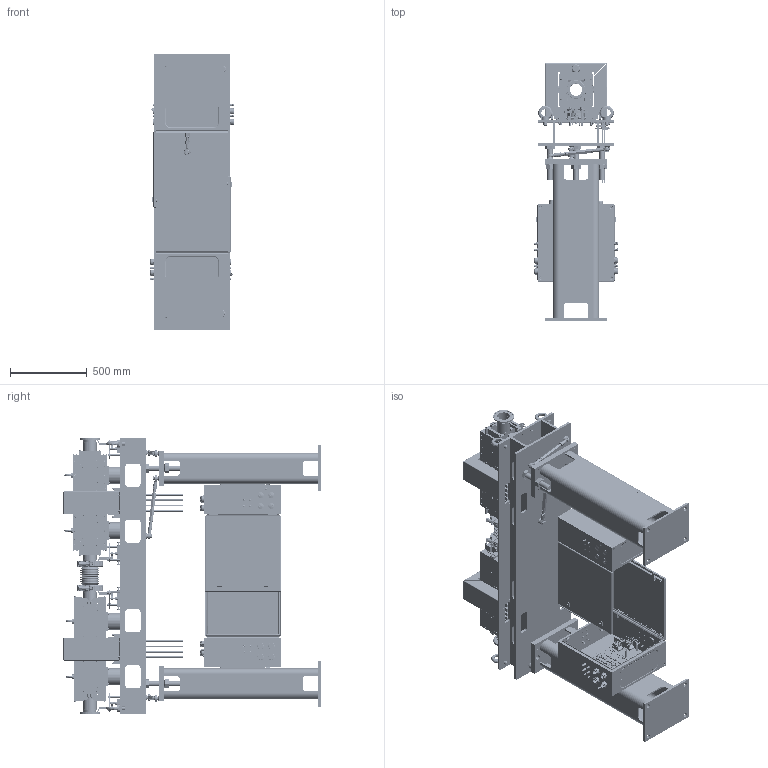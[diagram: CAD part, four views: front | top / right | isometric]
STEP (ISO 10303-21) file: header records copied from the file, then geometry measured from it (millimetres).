
FILE_DESCRIPTION(/* description */ ('Magnet assembly on adjustable stand'),/* implementation_level */ '2;1');
FILE_NAME(/* name */ 'C:\Users\aana\Desktop\7103033532.stp',/* time_stamp */ '2018-04-19T10:28:01+02:00',/* author */ ('AANA'),/* organization */ (''),/* preprocessor_version */ 'ST-DEVELOPER v17',/* originating_system */ 'Autodesk Inventor 2018',/* authorisation */ '');
FILE_SCHEMA (('AUTOMOTIVE_DESIGN { 1 0 10303 214 3 1 1 }'));
Products named in the file (157): 7103033532; 7103033525; 7103033526; 7103033528; 5200802918; 5300800049; 7103033529; 9000015606; 9000015606_1; 7103036097; 5200804404; 7103033529_1; 9000015606_2; 9000015606_3; 7103036097_1; 5200804404_1; 7103033529_2; 7103034284; 7103036098; 5300800134; 9000015606_4; 7103034285; 5200801621; 9000015606_5; Brd.Klee-03001016150-GI16; Brd.Klee-03001016150-GI16-02; 7103036097_2; 5200804404_2; 5200803999; 7103033504; 7103033506; 7103033505; 7103036531; 7103033516; 7103033517; 7103033521; 7103033507; 7103033508; 7103033514; 7103036631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
Assembly tree (1193 placements, depth 5):
  7103033532
    7103033525
      7103033526
      7103033528  x2
      5200802918  x3
      5300800049  x3
      7103033529
        7103034284
        5300800134  x2
        7103036098
        7103034285  x2
        5200801621  x2
        9000015606
          Brd.Klee-03001016150-GI16
          Brd.Klee-03001016150-GI16-02
        9000015606_1
          Brd.Klee-03001016150-GI16
          Brd.Klee-03001016150-GI16-02
        7103036097
        5200804404
      7103033529_1
        7103034284
        5300800134  x2
        7103036098
        7103034285  x2
        5200801621  x2
        9000015606_2
          Brd.Klee-03001016150-GI16
          Brd.Klee-03001016150-GI16-02
        9000015606_3
          Brd.Klee-03001016150-GI16
          Brd.Klee-03001016150-GI16-02
        7103036097_1
        5200804404_1
      7103033529_2
        7103034284
        5300800134  x2
        7103036098
        7103034285  x2
        5200801621  x2
        9000015606_4
          Brd.Klee-03001016150-GI16
          Brd.Klee-03001016150-GI16-02
        9000015606_5
          Brd.Klee-03001016150-GI16
          Brd.Klee-03001016150-GI16-02
        7103036097_2
        5200804404_2
      5200803999  x4
    7103033504  x2
      7103033505
      7103033506
      7103033516
      7103033517
      7103033521
        7103033507
        7103033508
        7103033514
        7103033515  x2
        7103036631
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Bounding box: 552 x 1672 x 1800 mm (x, y, z)
Volume: 112866925 mm3; surface area: 26408270.5 mm2
Topology: 1952 solids, 2184 shells, 55382 faces, 149077 edges, 100201 vertices
Faces by surface type: plane 32346, cylinder 14989, cone 4795, bspline 1902, torus 1132, sphere 218
Full cylindrical faces by diameter (mm): 1.422 x12, 1.5 x4, 1.98 x8, 1.981 x48, 2 x128, 2.1 x64, 2.18 x4, 2.22 x4, 2.29 x4, 2.459 x64, 2.616 x12, 2.693 x8, 3 x28, 3.1 x20, 3.2 x64, 3.242 x138, 3.7 x48, 4 x194, 4.134 x128, 4.3 x72, 4.4 x8, 4.674 x24, 4.72 x4, 4.826 x2, 4.917 x120, 5 x40, 5.15 x4, 5.3 x36, 5.333 x6, 5.5 x30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
Entity records: 358638 total; most frequent: CARTESIAN_POINT 158309, DIRECTION 40995, ORIENTED_EDGE 38728, EDGE_CURVE 19478, AXIS2_PLACEMENT_3D 15422, VERTEX_POINT 13092, LINE 10151, VECTOR 10151
